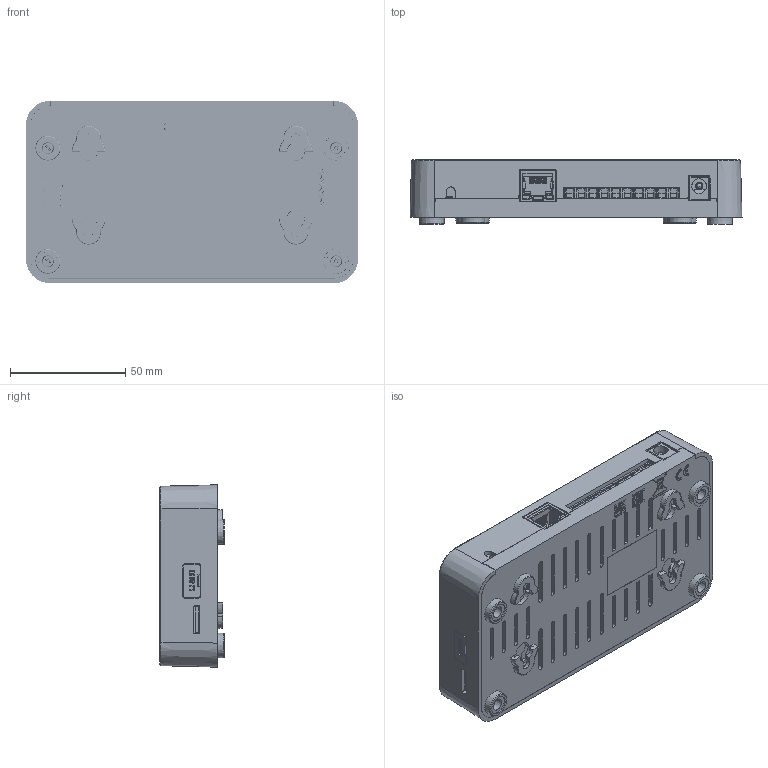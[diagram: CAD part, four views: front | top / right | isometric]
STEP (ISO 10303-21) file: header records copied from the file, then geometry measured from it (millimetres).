
FILE_DESCRIPTION(/* description */ (''),/* implementation_level */ '2;1');
FILE_NAME(/* name */ 'EH-01 Lite.step',/* time_stamp */ '2026-01-24T19:51:53+01:00',/* author */ (''),/* organization */ (''),/* preprocessor_version */ 'ST-DEVELOPER v20.1',/* originating_system */ 'Autodesk Translation Framework v14.24.0.0',/* authorisation */ '');
FILE_SCHEMA (('AUTOMOTIVE_DESIGN { 1 0 10303 214 3 1 1 }'));
Products named in the file (41): OP-1029_Centrala light_2024-02; OP-1029_A; OP-1029_B_poprawki_2024-04; Pleksa; USB_zatyczka od Gracka; ST-2658_2_3_A; Packages; 69410X301002; 6941xx301002; 694106301002_PinContact; 6941xx301002_Back; 6941xx301002_PinContact2; 6941xx301002_PinLame; 6941xx301002_PinBis; LPJ0012GDNL; 615008185221_Housing; 615008185221_Housing2; pin1; pin2; pin3; pin5; pin4; pin6; pin7; pin8; 615008185221_Shielding; 615008185221_GreenLed; 615008185221_YellowLed; pin_led; MEM2051-00-195-A_WITH_CARD; MEM2051-00-195-00-A_PART4; MEM2051-00-195-00-A_PART3; MEM2051-00-195-00-A_PART2; MEM2051-00-195-00-A_PART1; MicroSD v1; USB-A1D122F-0B4N; 61400416021_Insulator; 61400416021_Shielding; 61400416021_Contact Plating; ULO-TB51-127/5.0-02P-4100A_STANDARD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
Assembly tree (48 placements, depth 5):
  OP-1029_Centrala light_2024-02
    OP-1029_A
    OP-1029_B_poprawki_2024-04
    Pleksa
    USB_zatyczka od Gracka
    ST-2658_2_3_A
      Packages
        69410X301002
          6941xx301002
          694106301002_PinContact
          6941xx301002_Back
          6941xx301002_PinContact2
          6941xx301002_PinLame
          6941xx301002_PinBis
        LPJ0012GDNL
          615008185221_Housing
          615008185221_Housing2
          pin1
          pin2
          pin3
          pin5
          pin4
          pin6
          pin7
          pin8
          615008185221_Shielding
          pin_led  x4
          615008185221_GreenLed
          615008185221_YellowLed
        MEM2051-00-195-A_WITH_CARD
          MEM2051-00-195-00-A_PART4
          MEM2051-00-195-00-A_PART3
          MEM2051-00-195-00-A_PART2
          MEM2051-00-195-00-A_PART1
          MicroSD v1
        USB-A1D122F-0B4N
          61400416021_Insulator
          61400416021_Contact Plating  x4
          61400416021_Shielding
        ULO-TB51-127/5.0-02P-4100A_STANDARD  x2
        ULO-TB51-127/5.0-03P-4100A_STNADARD  x2
Bounding box: 144.16 x 27.9 x 79.2 mm (x, y, z)
Volume: 92353.4 mm3; surface area: 126355.3 mm2
Topology: 50 solids, 1659 shells, 9330 faces, 30787 edges, 23027 vertices
Faces by surface type: plane 6411, cylinder 1425, bspline 1037, cone 242, torus 189, sphere 26
Full cylindrical faces by diameter (mm): 0.35 x4, 0.38 x2, 0.66 x1, 1.2 x10, 1.5 x3, 1.8 x1, 2 x5, 3.2 x2, 3.5 x10, 3.7 x10, 6.4 x1
Entity records: 361306 total; most frequent: CARTESIAN_POINT 111679, ORIENTED_EDGE 46708, DIRECTION 46283, EDGE_CURVE 28333, LINE 21573, VECTOR 21573, VERTEX_POINT 21415, AXIS2_PLACEMENT_3D 12355
